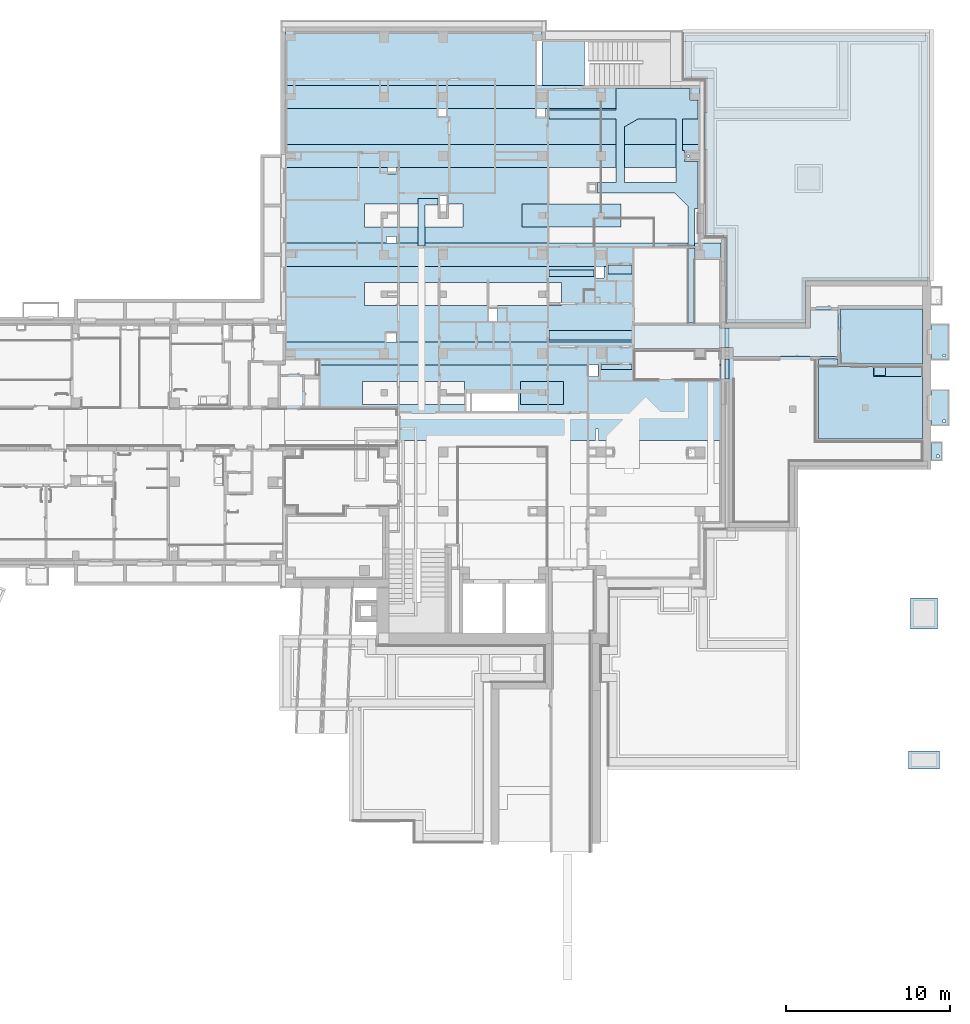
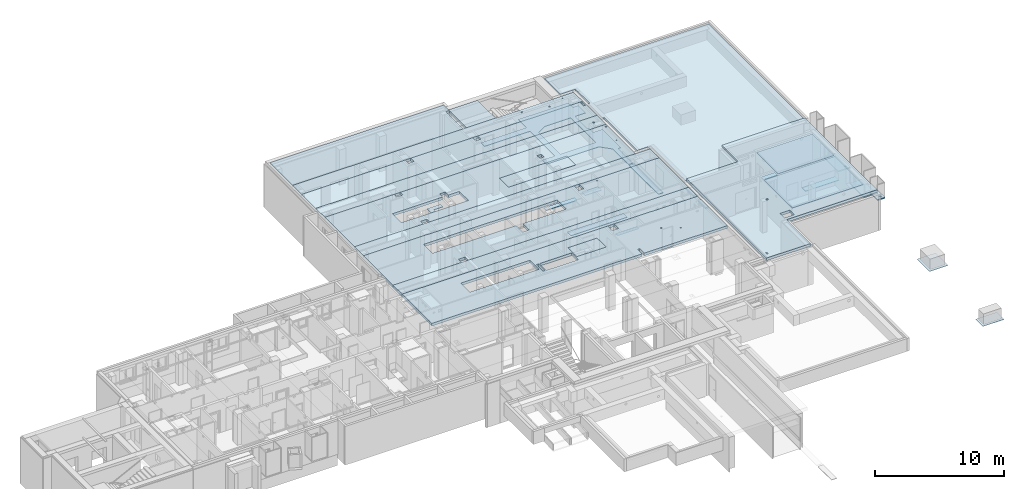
# One storey, part 7 of 84: 32 slabs, 27 openings.
"""IFC4 building model written with IfcOpenShell, lengths in metres."""

from ifc_helpers import new_model, entity, si_unit, converted_unit, derived_unit, frame, frame_2d, origin, origin_with_axes, place, context, subcontext, project, spatial, polyline, rectangle, circle, outline, extrude, material, element, save


model = new_model("IFC4")

# Units and contexts
model_context = context("Model", 3, precision=1e-05, world=origin())
body_context = subcontext(model_context, "Body", "Model", "MODEL_VIEW")
ifc_project = project(units=[si_unit("LENGTHUNIT", "METRE"), si_unit("AREAUNIT", "SQUARE_METRE"), si_unit("VOLUMEUNIT", "CUBIC_METRE"), si_unit("MASSUNIT", "GRAM", prefix="KILO"), converted_unit("PLANEANGLEUNIT", "DEGREE", entity("IfcPlaneAngleMeasure", 0.0174532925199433), si_unit("PLANEANGLEUNIT", "RADIAN"), dimensions=[0, 0, 0, 0, 0, 0, 0]), derived_unit("THERMALTRANSMITTANCEUNIT", [(si_unit("POWERUNIT", "WATT"), 1), (si_unit("THERMODYNAMICTEMPERATUREUNIT", "KELVIN"), -1), (si_unit("LENGTHUNIT", "METRE"), -2)]), derived_unit("VOLUMETRICFLOWRATEUNIT", [(si_unit("LENGTHUNIT", "METRE"), 3), (converted_unit("TIMEUNIT", "hour", entity("IfcTimeMeasure", 3600.0), si_unit("TIMEUNIT", "SECOND"), dimensions=[0, 0, 1, 0, 0, 0, 0]), -1), (si_unit("LENGTHUNIT", "METRE"), -1)])], contexts=[model_context])

# Site, building, storey
site_placement = place(None, origin())
site = spatial("IfcSite", under=ifc_project, at=site_placement, Name="3. ASŘ", CompositionType="ELEMENT")
building_placement = place(site_placement, origin())
building = spatial("IfcBuilding", under=site, at=building_placement, Name="Pavilon C", CompositionType="ELEMENT")
storey_placement = place(building_placement, frame((0.0, 0.0, -3.3)))
storey = spatial("IfcBuildingStorey", under=building, at=storey_placement, Name="Půdorys 1.PP", CompositionType="ELEMENT", Elevation=-3.3)

# Slab
ifc_material_1 = material(Name="RZT")
slab_1_placement = place(storey_placement, frame((39.15, 20.9, 2.95)))
element("IfcSlab", 1, at=slab_1_placement, inside=storey, material=ifc_material_1, PredefinedType="FLOOR", context=body_context, shape_type="SweptSolid", body=[
    extrude(rectangle(XDim=1.4, YDim=6.0, at=frame_2d((-3.0, 0.7), x_axis=(0.0, 1.0))), frame((6.0, 0.0, 0.0), z_axis=(0.0, 0.0, 1.0), x_axis=(1.0, 0.0, 0.0)), (0.0, 0.0, 1.0), 0.25),
])

# Slab, opening
ifc_material_2 = material(Name="PZD")
slab_2_placement = place(storey_placement, frame((24.75, 29.5, 2.95)))
slab_2 = element("IfcSlab", 2, at=slab_2_placement, inside=storey, material=ifc_material_2, PredefinedType="FLOOR", context=body_context, shape_type="SweptSolid", body=[
    extrude(outline(polyline([(0.0, 3.63797880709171e-15), (18.2, 0.0), (18.2, 2.8), (15.6, 2.8), (15.6, 3.55), (0.0, 3.55), (0.0, 3.63797880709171e-15)])), origin_with_axes(), (0.0, 0.0, 1.0), 0.25),
])
opening_1_placement = place(slab_2_placement, frame((15.3, 0.0, 0.0)))
element("IfcOpeningElement", 3, at=opening_1_placement, cuts=slab_2, Name="Prostup deskou", ObjectType="Opening", context=body_context, shape_type="SweptSolid", body=[
    extrude(rectangle(XDim=2.7, YDim=0.3, at=frame_2d((7.27595761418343e-15, -3.63797880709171e-15), x_axis=(0.0, -1.0))), frame((0.149999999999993, 1.35, 0.0), z_axis=(0.0, 0.0, 1.0), x_axis=(1.0, 0.0, 0.0)), (0.0, 0.0, 1.0), 0.25),
])

# Slabs
ifc_material_3 = material(Name="RZT")
slab_3_placement = place(storey_placement, frame((39.05, 10.1, 2.95)))
element("IfcSlab", 4, at=slab_3_placement, inside=storey, material=ifc_material_3, PredefinedType="FLOOR", context=body_context, shape_type="SweptSolid", body=[
    extrude(rectangle(XDim=1.4, YDim=2.6, at=frame_2d((-1.3, 0.7), x_axis=(0.0, 1.0))), frame((2.6, 0.0, 0.0), z_axis=(0.0, 0.0, 1.0), x_axis=(1.0, 0.0, 0.0)), (0.0, 0.0, 1.0), 0.25),
])
ifc_material_4 = material(Name="RZT")
slab_4_placement = place(storey_placement, frame((24.75, 12.5, 2.95)))
element("IfcSlab", 5, at=slab_4_placement, inside=storey, material=ifc_material_4, PredefinedType="FLOOR", context=body_context, shape_type="SweptSolid", body=[
    extrude(rectangle(XDim=1.4, YDim=26.5, at=frame_2d((-13.25, 0.700000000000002), x_axis=(0.0, 1.0))), frame((26.5, 0.0, 0.0), z_axis=(0.0, 0.0, 1.0), x_axis=(1.0, 0.0, 0.0)), (0.0, 0.0, 1.0), 0.25),
])
ifc_material_5 = material(Name="RZT")
slab_5_placement = place(storey_placement, frame((24.75, 18.5, 2.95)))
element("IfcSlab", 6, at=slab_5_placement, inside=storey, material=ifc_material_5, PredefinedType="FLOOR", context=body_context, shape_type="SweptSolid", body=[
    extrude(rectangle(XDim=1.4, YDim=26.5, at=frame_2d((-13.25, 0.7), x_axis=(0.0, 1.0))), frame((26.5, 0.0, 0.0), z_axis=(0.0, 0.0, 1.0), x_axis=(1.0, 0.0, 0.0)), (0.0, 0.0, 1.0), 0.25),
])

# Slab, opening
ifc_material_6 = material(Name="RZT")
slab_6_placement = place(storey_placement, frame((24.75, 24.5, 2.95)))
slab_6 = element("IfcSlab", 7, at=slab_6_placement, inside=storey, material=ifc_material_6, PredefinedType="FLOOR", context=body_context, shape_type="SweptSolid", body=[
    extrude(rectangle(XDim=1.4, YDim=25.2, at=frame_2d((-12.6, 0.700000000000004), x_axis=(0.0, 1.0))), frame((25.2, 0.0, 0.0), z_axis=(0.0, 0.0, 1.0), x_axis=(1.0, 0.0, 0.0)), (0.0, 0.0, 1.0), 0.25),
])
opening_2_placement = place(slab_6_placement, frame((24.425077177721, 0.62507717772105, 0.0)))
element("IfcOpeningElement", 8, at=opening_2_placement, cuts=slab_6, Name="Prostup deskou", ObjectType="Opening", context=body_context, shape_type="SweptSolid", body=[
    extrude(circle(Radius=0.0749999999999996, at=frame_2d((7.27595761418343e-15, -3.63797880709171e-15), x_axis=(1.0, 0.0))), frame((0.0749228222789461, 0.0749228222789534, 0.0), z_axis=(0.0, 0.0, 1.0), x_axis=(1.0, 0.0, 0.0)), (0.0, 0.0, 1.0), 0.25),
])

# Slab, openings
ifc_material_7 = material(Name="RZT")
slab_7_placement = place(storey_placement, frame((24.75, 28.1, 2.95)))
slab_7 = element("IfcSlab", 9, at=slab_7_placement, inside=storey, material=ifc_material_7, PredefinedType="FLOOR", context=body_context, shape_type="SweptSolid", body=[
    extrude(rectangle(XDim=1.4, YDim=25.2, at=frame_2d((-12.6, 0.700000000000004), x_axis=(0.0, 1.0))), frame((25.2, 0.0, 0.0), z_axis=(0.0, 0.0, 1.0), x_axis=(1.0, 0.0, 0.0)), (0.0, 0.0, 1.0), 0.25),
])
opening_3_placement = place(slab_7_placement, frame((22.520577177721, 0.575077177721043, 0.0)))
element("IfcOpeningElement", 10, at=opening_3_placement, cuts=slab_7, Name="Prostup deskou", ObjectType="Opening", context=body_context, shape_type="SweptSolid", body=[
    extrude(circle(Radius=0.0749999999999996, at=frame_2d((7.27595761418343e-15, 3.63797880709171e-15), x_axis=(1.0, 0.0))), frame((0.0749228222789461, 0.0749228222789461, 0.0), z_axis=(0.0, 0.0, 1.0), x_axis=(1.0, 0.0, 0.0)), (0.0, 0.0, 1.0), 0.25),
])
opening_4_placement = place(slab_7_placement, frame((20.280077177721, 1.00098814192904, 0.0)))
element("IfcOpeningElement", 11, at=opening_4_placement, cuts=slab_7, Name="Prostup deskou", ObjectType="Opening", context=body_context, shape_type="SweptSolid", body=[
    extrude(circle(Radius=0.0749999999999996, at=frame_2d((7.27595761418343e-15, -1.09139364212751e-14), x_axis=(1.0, 0.0))), frame((0.0749228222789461, 0.0749228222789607, 0.0), z_axis=(0.0, 0.0, 1.0), x_axis=(1.0, 0.0, 0.0)), (0.0, 0.0, 1.0), 0.25),
])
opening_5_placement = place(slab_7_placement, frame((24.000051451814, 1.10005145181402, 0.0)))
element("IfcOpeningElement", 12, at=opening_5_placement, cuts=slab_7, Name="Prostup deskou", ObjectType="Opening", context=body_context, shape_type="SweptSolid", body=[
    extrude(circle(Radius=0.0499999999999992, at=frame_2d((2.18278728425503e-14, 1.09139364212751e-14), x_axis=(1.0, 0.0))), frame((0.0499485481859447, 0.0499485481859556, 0.0), z_axis=(0.0, 0.0, 1.0), x_axis=(1.0, 0.0, 0.0)), (0.0, 0.0, 1.0), 0.25),
])

ifc_material_8 = material(Name="PZD")
slab_8_placement = place(storey_placement, frame((24.75, 19.9, 2.95)))
slab_8 = element("IfcSlab", 13, at=slab_8_placement, inside=storey, material=ifc_material_8, PredefinedType="FLOOR", context=body_context, shape_type="SweptSolid", body=[
    extrude(outline(polyline([(0.0, 4.59999999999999), (0.0, 0.0), (25.2, 0.0), (25.2, 4.59999999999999), (0.0, 4.59999999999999)]), holes=[polyline([(20.4, 0.999999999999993), (14.4, 0.999999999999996), (14.4, 2.4), (20.4, 2.4), (20.4, 0.999999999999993)]), polyline([(10.8, 0.999999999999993), (4.8, 0.999999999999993), (4.8, 2.4), (10.8, 2.39999999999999), (10.8, 0.999999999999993)])]), origin_with_axes(), (0.0, 0.0, 1.0), 0.25),
])
opening_6_placement = place(slab_8_placement, frame((6.2, 4.2, 0.0)))
element("IfcOpeningElement", 14, at=opening_6_placement, cuts=slab_8, Name="Prostup deskou", ObjectType="Opening", context=body_context, shape_type="SweptSolid", body=[
    extrude(rectangle(XDim=0.4, YDim=0.55, at=frame_2d((7.27595761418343e-15, -3.63797880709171e-15), x_axis=(0.0, -1.0))), frame((0.274999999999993, 0.200000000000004, 0.0), z_axis=(0.0, 0.0, 1.0), x_axis=(1.0, 0.0, 0.0)), (0.0, 0.0, 1.0), 0.25),
])
opening_7_placement = place(slab_8_placement, frame((9.3, 2.4, 0.0)))
element("IfcOpeningElement", 15, at=opening_7_placement, cuts=slab_8, Name="Prostup deskou", ObjectType="Opening", context=body_context, shape_type="SweptSolid", body=[
    extrude(rectangle(XDim=0.5, YDim=0.5, at=frame_2d((7.27595761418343e-15, -3.63797880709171e-15), x_axis=(0.0, -1.0))), frame((0.249999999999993, 0.250000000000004, 0.0), z_axis=(0.0, 0.0, 1.0), x_axis=(1.0, 0.0, 0.0)), (0.0, 0.0, 1.0), 0.25),
])
opening_8_placement = place(slab_8_placement, frame((6.15, 0.0, 0.0)))
element("IfcOpeningElement", 16, at=opening_8_placement, cuts=slab_8, Name="Prostup deskou", ObjectType="Opening", context=body_context, shape_type="SweptSolid", body=[
    extrude(rectangle(XDim=0.4, YDim=0.6, at=frame_2d((7.27595761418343e-15, 0.0), x_axis=(0.0, -1.0))), frame((0.299999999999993, 0.2, 0.0), z_axis=(0.0, 0.0, 1.0), x_axis=(1.0, 0.0, 0.0)), (0.0, 0.0, 1.0), 0.25),
])
opening_9_placement = place(slab_8_placement, frame((18.45, 3.17499999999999, 0.0)))
element("IfcOpeningElement", 17, at=opening_9_placement, cuts=slab_8, Name="Prostup deskou", ObjectType="Opening", context=body_context, shape_type="SweptSolid", body=[
    extrude(rectangle(XDim=0.4, YDim=0.4, at=frame_2d((7.27595761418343e-15, -3.63797880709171e-15), x_axis=(0.0, -1.0))), frame((0.199999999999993, 0.200000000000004, 0.0), z_axis=(0.0, 0.0, 1.0), x_axis=(1.0, 0.0, 0.0)), (0.0, 0.0, 1.0), 0.25),
])
opening_10_placement = place(slab_8_placement, frame((24.780051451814, 2.25005145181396, 0.0)))
element("IfcOpeningElement", 18, at=opening_10_placement, cuts=slab_8, Name="Prostup deskou", ObjectType="Opening", context=body_context, shape_type="SweptSolid", body=[
    extrude(circle(Radius=0.0499999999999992, at=frame_2d((-7.27595761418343e-15, -7.27595761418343e-15), x_axis=(1.0, 0.0))), frame((0.0499485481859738, 0.0499485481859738, 0.0), z_axis=(0.0, 0.0, 1.0), x_axis=(1.0, 0.0, 0.0)), (0.0, 0.0, 1.0), 0.25),
])
opening_11_placement = place(slab_8_placement, frame((24.965077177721, 4.23507719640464, 0.0)))
element("IfcOpeningElement", 19, at=opening_11_placement, cuts=slab_8, Name="Prostup deskou", ObjectType="Opening", context=body_context, shape_type="SweptSolid", body=[
    extrude(circle(Radius=0.0749999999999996, at=frame_2d((0.0, -3.63797880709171e-15), x_axis=(1.0, 0.0))), frame((0.0749228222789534, 0.0749228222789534, 0.0), z_axis=(0.0, 0.0, 1.0), x_axis=(1.0, 0.0, 0.0)), (0.0, 0.0, 1.0), 0.25),
])

ifc_material_9 = material(Name="PZD")
slab_9_placement = place(storey_placement, frame((24.75, 7.9, 2.95)))
slab_9 = element("IfcSlab", 20, at=slab_9_placement, inside=storey, material=ifc_material_9, PredefinedType="FLOOR", context=body_context, shape_type="SweptSolid", body=[
    extrude(outline(polyline([(26.5, 4.6), (0.0, 4.6), (0.0, 0.0), (26.5, 0.0), (26.5, 4.6)]), holes=[polyline([(10.9, 2.19999999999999), (4.7, 2.19999999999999), (4.7, 3.59999999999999), (10.9, 3.59999999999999), (10.9, 2.19999999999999)]), polyline([(14.3, 2.2), (14.3, 3.59999999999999), (16.9, 3.59999999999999), (16.9, 2.19999999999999), (14.3, 2.2)])]), origin_with_axes(), (0.0, 0.0, 1.0), 0.25),
])
opening_12_placement = place(slab_9_placement, frame((18.85, -4.54747350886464e-15, 0.0)))
element("IfcOpeningElement", 21, at=opening_12_placement, cuts=slab_9, Name="Prostup deskou", ObjectType="Opening", context=body_context, shape_type="SweptSolid", body=[
    extrude(rectangle(XDim=0.7, YDim=0.2, at=frame_2d((7.27595761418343e-15, 0.0), x_axis=(0.0, -1.0))), frame((0.0999999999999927, 0.35, 0.0), z_axis=(0.0, 0.0, 1.0), x_axis=(1.0, 0.0, 0.0)), (0.0, 0.0, 1.0), 0.25),
])
opening_13_placement = place(slab_9_placement, frame((18.45, 3.9, 0.0)))
element("IfcOpeningElement", 22, at=opening_13_placement, cuts=slab_9, Name="Prostup deskou", ObjectType="Opening", context=body_context, shape_type="SweptSolid", body=[
    extrude(rectangle(XDim=0.7, YDim=0.55, at=frame_2d((7.27595761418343e-15, 0.0), x_axis=(0.0, -1.0))), frame((0.274999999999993, 0.35, 0.0), z_axis=(0.0, 0.0, 1.0), x_axis=(1.0, 0.0, 0.0)), (0.0, 0.0, 1.0), 0.25),
])
opening_14_placement = place(slab_9_placement, frame((11.0125, 1.79999999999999, 0.0)))
element("IfcOpeningElement", 23, at=opening_14_placement, cuts=slab_9, Name="Prostup deskou", ObjectType="Opening", context=body_context, shape_type="SweptSolid", body=[
    extrude(rectangle(XDim=1.05, YDim=0.2, at=frame_2d((7.27595761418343e-15, 1.81898940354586e-15), x_axis=(0.0, -1.0))), frame((0.0999999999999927, 0.524999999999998, 0.0), z_axis=(0.0, 0.0, 1.0), x_axis=(1.0, 0.0, 0.0)), (0.0, 0.0, 1.0), 0.25),
])
opening_15_placement = place(slab_9_placement, frame((11.3375, 1.79999999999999, 0.0)))
element("IfcOpeningElement", 24, at=opening_15_placement, cuts=slab_9, Name="Prostup deskou", ObjectType="Opening", context=body_context, shape_type="SweptSolid", body=[
    extrude(rectangle(XDim=1.05, YDim=2.85, at=frame_2d((7.27595761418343e-15, 1.81898940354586e-15), x_axis=(0.0, -1.0))), frame((1.42499999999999, 0.524999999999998, 0.0), z_axis=(0.0, 0.0, 1.0), x_axis=(1.0, 0.0, 0.0)), (0.0, 0.0, 1.0), 0.25),
])
opening_16_placement = place(slab_9_placement, frame((21.835077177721, 2.23098814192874, 0.0)))
element("IfcOpeningElement", 25, at=opening_16_placement, cuts=slab_9, Name="Prostup deskou", ObjectType="Opening", context=body_context, shape_type="SweptSolid", body=[
    extrude(circle(Radius=0.0749999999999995, at=frame_2d((7.27595761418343e-15, -5.45696821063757e-15), x_axis=(1.0, 0.0))), frame((0.0749228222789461, 0.074922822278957, 0.0), z_axis=(0.0, 0.0, 1.0), x_axis=(1.0, 0.0, 0.0)), (0.0, 0.0, 1.0), 0.25),
])
opening_17_placement = place(slab_9_placement, frame((23.180051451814, 1.50005145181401, 0.0)))
element("IfcOpeningElement", 26, at=opening_17_placement, cuts=slab_9, Name="Prostup deskou", ObjectType="Opening", context=body_context, shape_type="SweptSolid", body=[
    extrude(circle(Radius=0.0499999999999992, at=frame_2d((2.18278728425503e-14, -5.45696821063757e-15), x_axis=(1.0, 0.0))), frame((0.0499485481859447, 0.049948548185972, 0.0), z_axis=(0.0, 0.0, 1.0), x_axis=(1.0, 0.0, 0.0)), (0.0, 0.0, 1.0), 0.25),
])

ifc_material_10 = material(Name="PZD")
slab_10_placement = place(storey_placement, frame((24.75, 13.9, 2.95)))
slab_10 = element("IfcSlab", 27, at=slab_10_placement, inside=storey, material=ifc_material_10, PredefinedType="FLOOR", context=body_context, shape_type="SweptSolid", body=[
    extrude(outline(polyline([(26.5, 0.0), (26.5, 4.6), (0.0, 4.6), (0.0, 0.0), (26.5, 0.0)]), holes=[polyline([(16.8, 3.6), (16.8, 2.2), (4.8, 2.2), (4.8, 3.6), (16.8, 3.6)])]), origin_with_axes(), (0.0, 0.0, 1.0), 0.25),
])
opening_18_placement = place(slab_10_placement, frame((18.9, 3.9, 0.0)))
element("IfcOpeningElement", 28, at=opening_18_placement, cuts=slab_10, Name="Prostup deskou", ObjectType="Opening", context=body_context, shape_type="SweptSolid", body=[
    extrude(rectangle(XDim=0.7, YDim=0.475, at=frame_2d((7.27595761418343e-15, -3.63797880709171e-15), x_axis=(0.0, -1.0))), frame((0.237499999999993, 0.350000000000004, 0.0), z_axis=(0.0, 0.0, 1.0), x_axis=(1.0, 0.0, 0.0)), (0.0, 0.0, 1.0), 0.25),
])
opening_19_placement = place(slab_10_placement, frame((12.3, 1.2, 0.0)))
element("IfcOpeningElement", 29, at=opening_19_placement, cuts=slab_10, Name="Prostup deskou", ObjectType="Opening", context=body_context, shape_type="SweptSolid", body=[
    extrude(rectangle(XDim=1.0, YDim=0.6, at=frame_2d((7.27595761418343e-15, -3.63797880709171e-15), x_axis=(0.0, -1.0))), frame((0.299999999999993, 0.500000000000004, 0.0), z_axis=(0.0, 0.0, 1.0), x_axis=(1.0, 0.0, 0.0)), (0.0, 0.0, 1.0), 0.25),
])
opening_20_placement = place(slab_10_placement, frame((6.15, 0.0, 0.0)))
element("IfcOpeningElement", 30, at=opening_20_placement, cuts=slab_10, Name="Prostup deskou", ObjectType="Opening", context=body_context, shape_type="SweptSolid", body=[
    extrude(rectangle(XDim=0.5, YDim=0.6, at=frame_2d((7.27595761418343e-15, -1.81898940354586e-15), x_axis=(0.0, -1.0))), frame((0.299999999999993, 0.250000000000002, 0.0), z_axis=(0.0, 0.0, 1.0), x_axis=(1.0, 0.0, 0.0)), (0.0, 0.0, 1.0), 0.25),
])
opening_21_placement = place(slab_10_placement, frame((20.725051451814, 4.26658904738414, 0.0)))
element("IfcOpeningElement", 31, at=opening_21_placement, cuts=slab_10, Name="Prostup deskou", ObjectType="Opening", context=body_context, shape_type="SweptSolid", body=[
    extrude(circle(Radius=0.0499999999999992, at=frame_2d((7.27595761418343e-15, 7.27595761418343e-15), x_axis=(1.0, 0.0))), frame((0.0499485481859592, 0.0499485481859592, 0.0), z_axis=(0.0, 0.0, 1.0), x_axis=(1.0, 0.0, 0.0)), (0.0, 0.0, 1.0), 0.25),
])

ifc_material_11 = material(Name="PZD")
slab_11_placement = place(storey_placement, frame((24.75, 25.9, 2.95)))
slab_11 = element("IfcSlab", 32, at=slab_11_placement, inside=storey, material=ifc_material_11, PredefinedType="FLOOR", context=body_context, shape_type="SweptSolid", body=[
    extrude(rectangle(XDim=25.2, YDim=2.2, at=frame_2d((12.6, 1.1), x_axis=(1.0, -1.44364238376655e-16))), frame((0.0, 3.63797880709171e-15, 0.0), z_axis=(0.0, 0.0, 1.0), x_axis=(1.0, 0.0, 0.0)), (0.0, 0.0, 1.0), 0.25),
])
opening_22_placement = place(slab_11_placement, frame((9.3, 1.7, 0.0)))
element("IfcOpeningElement", 33, at=opening_22_placement, cuts=slab_11, Name="Prostup deskou", ObjectType="Opening", context=body_context, shape_type="SweptSolid", body=[
    extrude(rectangle(XDim=0.5, YDim=0.475, at=frame_2d((7.27595761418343e-15, -3.63797880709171e-15), x_axis=(0.0, -1.0))), frame((0.237499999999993, 0.250000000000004, 0.0), z_axis=(0.0, 0.0, 1.0), x_axis=(1.0, 0.0, 0.0)), (0.0, 0.0, 1.0), 0.25),
])
opening_23_placement = place(slab_11_placement, frame((15.3, 1.7, 0.0)))
element("IfcOpeningElement", 34, at=opening_23_placement, cuts=slab_11, Name="Prostup deskou", ObjectType="Opening", context=body_context, shape_type="SweptSolid", body=[
    extrude(rectangle(XDim=0.5, YDim=0.5, at=frame_2d((7.27595761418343e-15, -3.63797880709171e-15), x_axis=(0.0, -1.0))), frame((0.249999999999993, 0.250000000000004, 0.0), z_axis=(0.0, 0.0, 1.0), x_axis=(1.0, 0.0, 0.0)), (0.0, 0.0, 1.0), 0.25),
])
opening_24_placement = place(slab_11_placement, frame((24.95, 1.62499999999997, 0.0)))
element("IfcOpeningElement", 35, at=opening_24_placement, cuts=slab_11, Name="Prostup deskou", ObjectType="Opening", context=body_context, shape_type="SweptSolid", body=[
    extrude(rectangle(XDim=0.525, YDim=0.15, at=frame_2d((7.27595761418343e-15, -3.63797880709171e-15), x_axis=(0.0, -1.0))), frame((0.0749999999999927, 0.262500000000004, 0.0), z_axis=(0.0, 0.0, 1.0), x_axis=(1.0, 0.0, 0.0)), (0.0, 0.0, 1.0), 0.25),
])

# Slabs
ifc_material_12 = material(Name="Kuchyňská deska")
slab_12_placement = place(storey_placement, frame((60.4999230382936, 11.7999999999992, 0.82)))
element("IfcSlab", 36, at=slab_12_placement, inside=storey, material=ifc_material_12, PredefinedType="FLOOR", context=body_context, shape_type="SweptSolid", body=[
    extrude(outline(polyline([(6.62682179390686e-05, 0.600012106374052), (0.0, 1.21100336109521e-05), (2.39992221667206, 1.25135744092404e-05), (2.39992221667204, 9.5541327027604e-10), (2.99992221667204, 0.0), (2.99992221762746, 0.599999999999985), (2.39993332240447, 0.600000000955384), (2.39993332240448, 0.60001251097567), (6.62682179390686e-05, 0.600012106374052)]), holes=[polyline([(0.725066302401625, 0.543313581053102), (0.73220568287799, 0.538314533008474), (0.738368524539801, 0.532151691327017), (0.743367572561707, 0.525012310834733), (0.747050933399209, 0.517113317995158), (0.749306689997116, 0.508694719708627), (0.750066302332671, 0.500012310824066), (0.750066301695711, 0.100012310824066), (0.749458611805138, 0.0930663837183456), (0.748603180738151, 0.0880051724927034), (0.747222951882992, 0.083605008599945), (0.744616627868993, 0.077312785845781), (0.740517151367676, 0.0706230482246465), (0.735421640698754, 0.0646569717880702), (0.729455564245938, 0.0595614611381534), (0.722765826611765, 0.0554619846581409), (0.715517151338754, 0.0524594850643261), (0.707888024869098, 0.0506278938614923), (0.700066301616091, 0.0500123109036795), (0.100000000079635, 0.0500121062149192), (0.0921782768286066, 0.0506276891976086), (0.0845491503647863, 0.0524592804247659), (0.0773004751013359, 0.0554617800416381), (0.0706107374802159, 0.0595612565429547), (0.0646446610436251, 0.0646567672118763), (0.0595491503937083, 0.070622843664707), (0.0554496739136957, 0.0773125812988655), (0.0537179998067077, 0.0810918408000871), (0.0519490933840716, 0.0861878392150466), (0.0506076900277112, 0.0930661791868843), (0.0500000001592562, 0.10001210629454), (0.0500000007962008, 0.50001210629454), (0.0507596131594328, 0.508694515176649), (0.0530153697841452, 0.517113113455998), (0.0566987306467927, 0.525012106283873), (0.0616977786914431, 0.532151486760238), (0.0678606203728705, 0.538314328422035), (0.075000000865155, 0.543313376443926), (0.0828989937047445, 0.546996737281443), (0.0913175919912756, 0.549252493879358), (0.100000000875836, 0.550012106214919), (0.700066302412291, 0.55001231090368), (0.708748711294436, 0.549252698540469), (0.717167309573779, 0.546996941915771), (0.725066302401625, 0.543313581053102)])]), origin_with_axes(), (0.0, 0.0, 1.0), 0.03),
])
ifc_material_13 = material(Name="ŽB ZÁKLADOVÁ DESKA")
slab_13_placement = place(storey_placement, frame((49.08, 15.05, 2.8)))
element("IfcSlab", 37, at=slab_13_placement, inside=storey, material=ifc_material_13, PredefinedType="BASESLAB", context=body_context, shape_type="SweptSolid", body=[
    extrude(outline(polyline([(7.29888830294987, 0.0), (7.29888830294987, 2.54999999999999), (14.72, 2.54999999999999), (14.72, 17.5), (0.0, 17.5), (0.0, 14.98), (1.35, 14.98), (1.35, 12.8), (1.14, 12.8), (1.14, 10.55), (1.35, 10.55), (1.35, 5.39999999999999), (2.27, 5.39999999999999), (2.27, 5.18999999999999), (2.47, 5.18999999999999), (2.47, 0.0), (7.29888830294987, 0.0)])), origin_with_axes(), (0.0, 0.0, 1.0), 0.2),
])
ifc_material_14 = material(Name="ANGLICKÝ DVOREK SE DNEM POCHOZÍ")
slab_14_placement = place(storey_placement, frame((64.02, 8.79499999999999, 0.78)))
element("IfcSlab", 38, at=slab_14_placement, inside=storey, material=ifc_material_14, Name="DNO ANGLICKÉHO DVORKU", PredefinedType="FLOOR", context=body_context, shape_type="SweptSolid", body=[
    extrude(outline(polyline([(0.0, 0.0), (1.08, 0.0), (1.08, 2.21), (0.0, 2.21), (0.0, 0.0)]), holes=[polyline([(0.875, 0.204999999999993), (0.725, 0.204999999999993), (0.725, 0.354999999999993), (0.875, 0.354999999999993), (0.875, 0.204999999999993)])]), origin_with_axes(), (0.0, 0.0, 1.0), 0.1),
])
ifc_material_15 = material(Name="ANGLICKÝ DVOREK SE DNEM POCHOZÍ")
slab_15_placement = place(storey_placement, frame((64.02, 12.795, 0.82)))
element("IfcSlab", 39, at=slab_15_placement, inside=storey, material=ifc_material_15, Name="DNO ANGLICKÉHO DVORKU", PredefinedType="FLOOR", context=body_context, shape_type="SweptSolid", body=[
    extrude(outline(polyline([(0.0, 0.0), (1.08, 0.0), (1.08, 2.21), (0.0, 2.21), (0.0, 0.0)]), holes=[polyline([(0.875, 0.204999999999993), (0.725, 0.204999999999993), (0.725, 0.354999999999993), (0.875, 0.354999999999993), (0.875, 0.204999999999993)])]), origin_with_axes(), (0.0, 0.0, 1.0), 0.1),
])
ifc_material_16 = material(Name="ANGLICKÝ DVOREK SE DNEM POCHOZÍ")
slab_16_placement = place(storey_placement, frame((64.0199999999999, 6.66999999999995, 1.83)))
element("IfcSlab", 40, at=slab_16_placement, inside=storey, material=ifc_material_16, Name="DNO ANGLICKÉHO DVORKU", PredefinedType="FLOOR", context=body_context, shape_type="SweptSolid", body=[
    extrude(outline(polyline([(0.0, 0.0), (0.68, 0.0), (0.680000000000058, 1.16), (5.82076609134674e-14, 1.16), (0.0, 0.0)]), holes=[polyline([(0.325000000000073, 0.204999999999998), (0.325000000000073, 0.354999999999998), (0.475000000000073, 0.354999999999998), (0.475000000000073, 0.204999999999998), (0.325000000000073, 0.204999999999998)])]), origin_with_axes(), (0.0, 0.0, 1.0), 0.1),
])
ifc_material_17 = material(Name="ZELEZOBETONOVÁ KCE")
slab_17_placement = place(storey_placement, frame((51.475, 13.55, 2.4)))
element("IfcSlab", 41, at=slab_17_placement, inside=storey, material=ifc_material_17, PredefinedType="FLOOR", context=body_context, shape_type="SweptSolid", body=[
    extrude(rectangle(XDim=1.2, YDim=0.255, at=frame_2d((-0.1275, 0.600000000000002), x_axis=(0.0, 1.0))), frame((0.255, 0.0, 0.0), z_axis=(0.0, 0.0, 1.0), x_axis=(1.0, 0.0, 0.0)), (0.0, 0.0, 1.0), 0.15),
])
ifc_material_18 = material(Name="ZELEZOBETONOVÁ KCE")
slab_18_placement = place(storey_placement, frame((51.475, 11.65, 2.4)))
element("IfcSlab", 42, at=slab_18_placement, inside=storey, material=ifc_material_18, PredefinedType="FLOOR", context=body_context, shape_type="SweptSolid", body=[
    extrude(rectangle(XDim=1.2, YDim=0.255, at=frame_2d((-0.1275, 0.600000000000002), x_axis=(0.0, 1.0))), frame((0.255, 0.0, 0.0), z_axis=(0.0, 0.0, 1.0), x_axis=(1.0, 0.0, 0.0)), (0.0, 0.0, 1.0), 0.15),
])

# Slab, openings
ifc_material_19 = material(Name="ZELEZOBETONOVÁ KCE")
slab_19_placement = place(storey_placement, frame((51.73, 2.63, 2.9)))
slab_19 = element("IfcSlab", 43, at=slab_19_placement, inside=storey, material=ifc_material_19, PredefinedType="FLOOR", context=body_context, shape_type="SweptSolid", body=[
    extrude(outline(polyline([(3.96999999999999, 0.0), (3.96999999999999, 3.71999999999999), (12.07, 3.71999999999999), (12.07, 14.97), (4.64888830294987, 14.97), (4.64888830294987, 12.42), (0.0, 12.42), (0.0, 0.0), (3.96999999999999, 0.0)])), origin_with_axes(), (0.0, 0.0, 1.0), 0.25),
])
opening_25_placement = place(slab_19_placement, frame((3.91999999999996, 4.02, 0.0)))
element("IfcOpeningElement", 44, at=opening_25_placement, cuts=slab_19, Name="Prostup deskou", ObjectType="Opening", context=body_context, shape_type="SweptSolid", body=[
    extrude(rectangle(XDim=0.899999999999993, YDim=0.700000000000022, at=frame_2d((0.0, 0.0), x_axis=(1.0, -2.42531920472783e-14))), frame((0.45, 0.350000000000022, 0.0), z_axis=(0.0, 0.0, 1.0), x_axis=(1.0, 0.0, 0.0)), (0.0, 0.0, 1.0), 0.25),
])
opening_26_placement = place(slab_19_placement, frame((3.91760290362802, 6.77010290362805, 0.0)))
element("IfcOpeningElement", 45, at=opening_26_placement, cuts=slab_19, Name="Prostup deskou", ObjectType="Opening", context=body_context, shape_type="SweptSolid", body=[
    extrude(circle(Radius=0.100000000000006, at=frame_2d((1.45519152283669e-14, 0.0), x_axis=(1.0, 0.0))), frame((0.0998970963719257, 0.099897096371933, 0.0), z_axis=(0.0, 0.0, 1.0), x_axis=(1.0, 0.0, 0.0)), (0.0, 0.0, 1.0), 0.25),
])
opening_27_placement = place(slab_19_placement, frame((0.29994259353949, 0.45520414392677, 0.0)))
element("IfcOpeningElement", 46, at=opening_27_placement, cuts=slab_19, Name="Prostup deskou", ObjectType="Opening", context=body_context, shape_type="SweptSolid", body=[
    extrude(rectangle(XDim=0.12, YDim=0.219795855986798, at=frame_2d((-3.63797880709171e-15, -4.54747350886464e-16), x_axis=(1.0, 0.0))), frame((0.0600000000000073, 0.109897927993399, 0.0), z_axis=(0.0, 0.0, 1.0), x_axis=(1.0, 0.0, 0.0)), (0.0, 0.0, 1.0), 0.25),
])

# Slabs
ifc_material_20 = material(Name="Demontáž +montáž kazetového podh")
slab_20_placement = place(storey_placement, frame((40.775, 14.007791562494, 2.16)))
element("IfcSlab", 47, at=slab_20_placement, inside=storey, material=ifc_material_20, PredefinedType="FLOOR", context=body_context, shape_type="SweptSolid", body=[
    extrude(rectangle(XDim=5.05, YDim=0.6, at=frame_2d((2.525, 0.3), x_axis=(1.0, 0.0))), origin_with_axes(), (0.0, 0.0, 1.0), 0.05),
])
ifc_material_21 = material(Name="Demontáž +montáž kazetového podh")
slab_21_placement = place(storey_placement, frame((40.775, 17.8681593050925, 2.22)))
element("IfcSlab", 48, at=slab_21_placement, inside=storey, material=ifc_material_21, PredefinedType="FLOOR", context=body_context, shape_type="SweptSolid", body=[
    extrude(rectangle(XDim=2.75, YDim=0.4, at=frame_2d((1.375, 0.2), x_axis=(1.0, 0.0))), origin_with_axes(), (0.0, 0.0, 1.0), 0.05),
])
ifc_material_22 = material(Name="Demontáž +montáž podhledu FEAL")
slab_22_placement = place(storey_placement, frame((43.925, 12.225, 2.16)))
element("IfcSlab", 49, at=slab_22_placement, inside=storey, material=ifc_material_22, PredefinedType="FLOOR", context=body_context, shape_type="SweptSolid", body=[
    extrude(rectangle(XDim=1.9, YDim=0.3, at=frame_2d((0.95, 0.15), x_axis=(1.0, 0.0))), origin_with_axes(), (0.0, 0.0, 1.0), 0.05),
])
ifc_material_23 = material(Name="Demontáž +montáž podhledu FEAL")
slab_23_placement = place(storey_placement, frame((44.375, 18.025, 2.28)))
element("IfcSlab", 50, at=slab_23_placement, inside=storey, material=ifc_material_23, PredefinedType="FLOOR", context=body_context, shape_type="SweptSolid", body=[
    extrude(rectangle(XDim=0.55, YDim=1.45, at=frame_2d((-0.725, 0.275), x_axis=(0.0, 1.0))), frame((1.45, 0.0, 0.0), z_axis=(0.0, 0.0, 1.0), x_axis=(1.0, 0.0, 0.0)), (0.0, 0.0, 1.0), 0.05),
])
ifc_material_24 = material(Name="Demontáž +montáž kazetového podh")
slab_24_placement = place(storey_placement, frame((32.8255679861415, 19.725, 2.27)))
element("IfcSlab", 51, at=slab_24_placement, inside=storey, material=ifc_material_24, PredefinedType="FLOOR", context=body_context, shape_type="SweptSolid", body=[
    extrude(outline(polyline([(1.19943201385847, 2.91099847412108), (0.0, 2.91099847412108), (0.0, 0.0), (0.4, 0.0), (0.4, 2.51099847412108), (1.19943201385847, 2.51099847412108), (1.19943201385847, 2.91099847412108)])), origin_with_axes(), (0.0, 0.0, 1.0), 0.05),
])
ifc_material_25 = material(Name="Demontáž +montáž podhledu FEAL")
slab_25_placement = place(storey_placement, frame((40.775, 19.725, 2.48)))
element("IfcSlab", 52, at=slab_25_placement, inside=storey, material=ifc_material_25, PredefinedType="FLOOR", context=body_context, shape_type="SweptSolid", body=[
    extrude(outline(polyline([(8.125, 5.8), (8.125, 7.72174272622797), (9.075, 7.72174272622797), (9.075, 8.875), (8.575, 8.875), (8.575, 9.575), (4.08, 9.57499999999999), (4.08, 8.28674272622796), (0.0, 8.28674272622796), (0.0, 7.72174272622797), (4.08, 7.72174272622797), (4.08, 3.875), (2.95, 3.875), (2.95, 3.225), (7.65, 3.225), (8.44975110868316, 2.42524889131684), (8.44975110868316, 0.0), (8.84975110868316, 0.0), (8.84975110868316, 2.27499999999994), (9.075, 2.27499999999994), (9.075, 5.15), (8.25, 5.15), (8.25, 5.8), (8.125, 5.8)]), holes=[polyline([(7.725, 3.875), (4.58, 3.875), (4.58, 7.24735318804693), (5.40166678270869, 7.72174272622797), (7.725, 7.72174272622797), (7.725, 3.875)])]), origin_with_axes(), (0.0, 0.0, 1.0), 0.05),
])
ifc_material_26 = material(Name="SDK hladký bílý")
slab_26_placement = place(storey_placement, frame((49.2, 15.05, 2.5)))
element("IfcSlab", 53, at=slab_26_placement, inside=storey, material=ifc_material_26, PredefinedType="FLOOR", context=body_context, shape_type="SweptSolid", body=[
    extrude(rectangle(XDim=4.55, YDim=0.45, at=frame_2d((-0.225, 2.275), x_axis=(0.0, 1.0))), frame((0.45, 0.0, 0.0), z_axis=(0.0, 0.0, 1.0), x_axis=(1.0, 0.0, 0.0)), (0.0, 0.0, 1.0), 0.05),
])
ifc_material_27 = material(Name="Kazetový podhled bílý 0,6×0,6")
slab_27_placement = place(storey_placement, frame((45.95, 13.0, 2.4)))
element("IfcSlab", 54, at=slab_27_placement, inside=storey, material=ifc_material_27, PredefinedType="FLOOR", context=body_context, shape_type="SweptSolid", body=[
    extrude(outline(polyline([(12.4, 2.84999999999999), (10.7288883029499, 2.84999999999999), (10.7288883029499, 1.75), (5.2, 1.75), (5.2, 1.925), (0.0, 1.925), (0.0, 0.499999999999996), (5.2, 0.499999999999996), (5.2, 0.550000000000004), (6.03, 0.550000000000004), (6.03, 0.0), (12.4, 0.0), (12.4, 2.84999999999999)])), origin_with_axes(), (0.0, 0.0, 1.0), 0.05),
])
ifc_material_28 = material(Name="Kazetový podhled bílý 0,6×0,6")
slab_28_placement = place(storey_placement, frame((58.5, 12.55, 2.7)))
element("IfcSlab", 55, at=slab_28_placement, inside=storey, material=ifc_material_28, PredefinedType="FLOOR", context=body_context, shape_type="SweptSolid", body=[
    extrude(rectangle(XDim=5.0, YDim=3.35, at=frame_2d((-2.5, -1.675), x_axis=(-1.0, 0.0))), frame((5.0, 3.35, 0.0), z_axis=(0.0, 0.0, 1.0), x_axis=(1.0, 0.0, 0.0)), (0.0, 0.0, 1.0), 0.05),
])
ifc_material_29 = material(Name="Kazetový podhled bílý 0,6×0,6")
slab_29_placement = place(storey_placement, frame((57.15, 12.44, 2.7)))
element("IfcSlab", 56, at=slab_29_placement, inside=storey, material=ifc_material_29, PredefinedType="FLOOR", context=body_context, shape_type="SweptSolid", body=[
    extrude(rectangle(XDim=0.410000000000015, YDim=1.2, at=frame_2d((0.6, -0.205000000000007), x_axis=(0.0, -1.0))), frame((0.0, 0.410000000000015, 0.0), z_axis=(0.0, 0.0, 1.0), x_axis=(1.0, 0.0, 0.0)), (0.0, 0.0, 1.0), 0.05),
])
ifc_material_30 = material(Name="Kazetový podhled bílý 0,6×0,6")
slab_30_placement = place(storey_placement, frame((57.15, 7.99999999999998, 2.7)))
element("IfcSlab", 57, at=slab_30_placement, inside=storey, material=ifc_material_30, PredefinedType="FLOOR", context=body_context, shape_type="SweptSolid", body=[
    extrude(outline(polyline([(6.35, 4.4), (1.2, 4.4), (0.0, 4.4), (0.0, 1.81898940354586e-15), (6.35, 0.0), (6.35, 4.4)])), origin_with_axes(), (0.0, 0.0, 1.0), 0.05),
])
ifc_material_31 = material(Name="BETONOVÁ KCE")
slab_31_placement = place(storey_placement, frame((62.75, -3.56000000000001, 1.75)))
element("IfcSlab", 58, at=slab_31_placement, inside=storey, material=ifc_material_31, Name="Podkladní beton", PredefinedType="FLOOR", context=body_context, shape_type="SweptSolid", body=[
    extrude(rectangle(XDim=1.90000000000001, YDim=1.65, at=frame_2d((0.825, -0.950000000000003), x_axis=(0.0, -1.0))), frame((0.0, 1.90000000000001, 0.0), z_axis=(0.0, 0.0, 1.0), x_axis=(1.0, 0.0, 0.0)), (0.0, 0.0, 1.0), 0.05),
])
ifc_material_32 = material(Name="BETONOVÁ KCE")
slab_32_placement = place(storey_placement, frame((62.625, -12.075, 1.75)))
element("IfcSlab", 59, at=slab_32_placement, inside=storey, material=ifc_material_32, Name="Podkladní beton", PredefinedType="FLOOR", context=body_context, shape_type="SweptSolid", body=[
    extrude(rectangle(XDim=1.1, YDim=1.9, at=frame_2d((0.95, -0.550000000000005), x_axis=(0.0, -1.0))), frame((0.0, 1.10000000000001, 0.0), z_axis=(0.0, 0.0, 1.0), x_axis=(1.0, 0.0, 0.0)), (0.0, 0.0, 1.0), 0.05),
])

save(model, "model.ifc")
